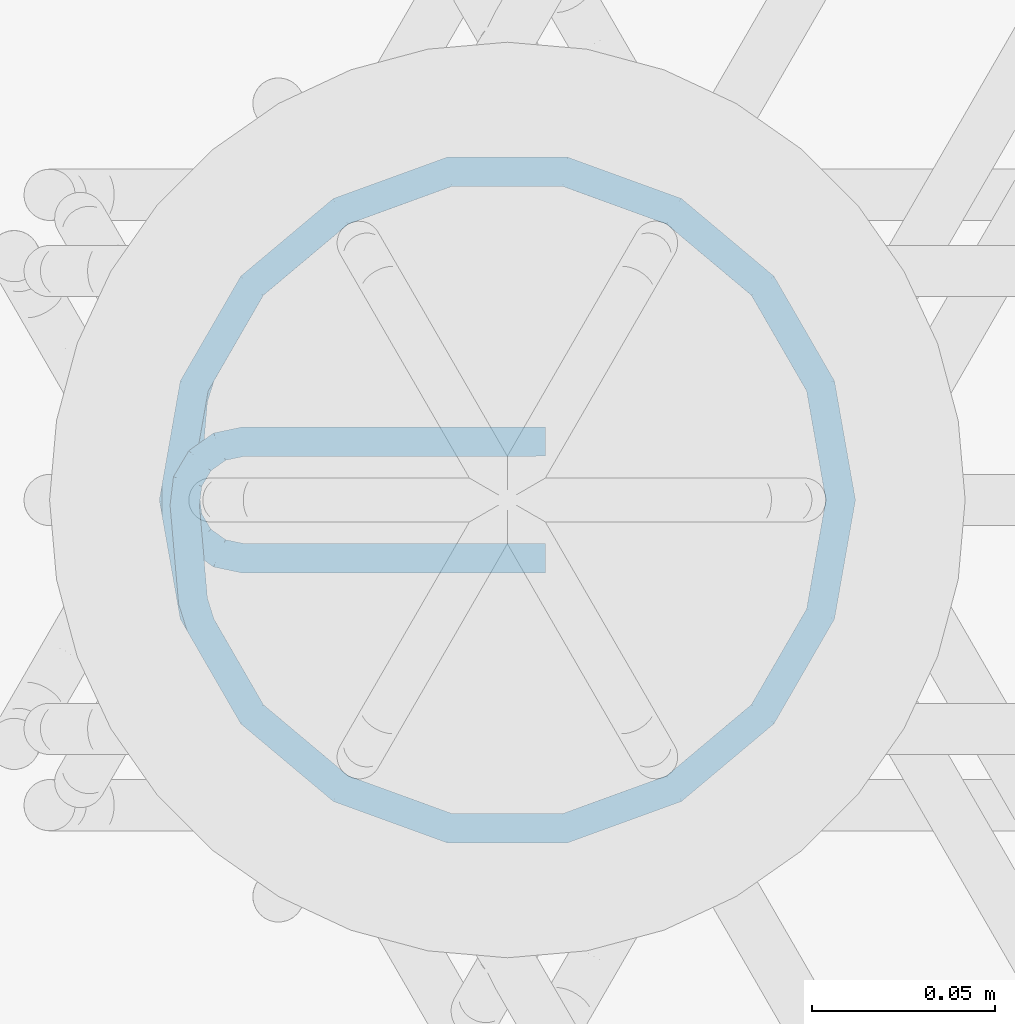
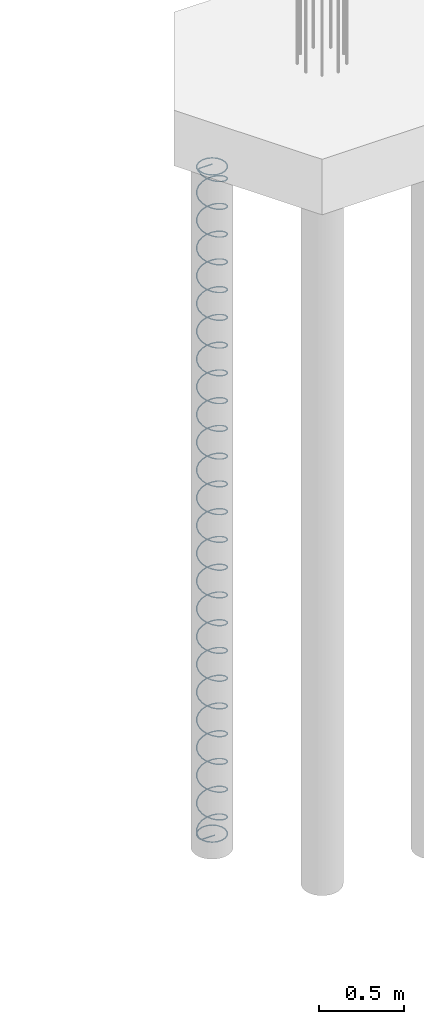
# One storey, part 8 of 23: 1 reinforcing bar.
"""IFC2X3 building model written with IfcOpenShell, lengths in metres."""

from ifc_helpers import new_model, entity, si_unit, direction, frame, origin, place, context, subcontext, project, spatial, shape, source, transform, mapped, element, save


model = new_model("IFC2X3")

# Units and contexts
model_context = context("Model", 3, precision=0.0, world=origin(), true_north=direction((0.0, 1.0)))
plan_context = context("Plan", 3, precision=0.0, world=origin(), true_north=direction((0.0, 1.0)))
body_context = subcontext(model_context, "Body", "Model", "MODEL_VIEW", scale=1.0)
ifc_project = project(units=[si_unit("LENGTHUNIT", "METRE"), si_unit("AREAUNIT", "SQUARE_METRE"), si_unit("VOLUMEUNIT", "CUBIC_METRE"), si_unit("PLANEANGLEUNIT", "RADIAN"), si_unit("THERMODYNAMICTEMPERATUREUNIT", "DEGREE_CELSIUS"), si_unit("FORCEUNIT", "NEWTON"), si_unit("MASSUNIT", "GRAM", prefix="KILO")], contexts=[model_context, plan_context])

# Site, building, storey
placement = place(None, origin())
site = spatial("IfcSite", under=ifc_project, at=placement, Name="Default Site", CompositionType="ELEMENT")
building = spatial("IfcBuilding", under=site, at=placement, Name="Default Building", CompositionType="ELEMENT")
storey_placement = place(placement, frame((0.0, 0.0, 0.0), z_axis=(1.0, 0.0, 0.0), x_axis=(0.0, 0.0, 1.0)))
storey = spatial("IfcBuildingStorey", under=building, at=storey_placement, Name="Piano 0", CompositionType="ELEMENT", Elevation=0.0)

# Reinforcing bar
shared_shape = source(origin(), body_context, None, "AdvancedSweptSolid", [
    entity("IfcSweptDiskSolid", entity("IfcCompositeCurve", [entity("IfcCompositeCurveSegment", "CONTINUOUS", True, entity("IfcPolyline", [entity("IfcCartesianPoint", [0.0, 0.0, 0.0]), entity("IfcCartesianPoint", [-0.08255, 0.0, 0.0]), entity("IfcCartesianPoint", [-0.088992, -0.001354, -1.3e-05]), entity("IfcCartesianPoint", [-0.094343, -0.005186, -4.9e-05]), entity("IfcCartesianPoint", [-0.097699, -0.010849, -0.000103]), entity("IfcCartesianPoint", [-0.09849, -0.017383, -0.000164]), entity("IfcCartesianPoint", [-0.096222, -0.043503, -0.000411]), entity("IfcCartesianPoint", [-0.094139, -0.050118, -0.000494]), entity("IfcCartesianPoint", [-0.080113, -0.074411, -0.000889]), entity("IfcCartesianPoint", [-0.055903, -0.094726, -0.001333]), entity("IfcCartesianPoint", [-0.026205, -0.105535, -0.001778]), entity("IfcCartesianPoint", [0.005399, -0.105535, -0.002222]), entity("IfcCartesianPoint", [0.035097, -0.094726, -0.002667]), entity("IfcCartesianPoint", [0.059307, -0.074411, -0.003111]), entity("IfcCartesianPoint", [0.075109, -0.047042, -0.003556]), entity("IfcCartesianPoint", [0.080597, -0.015918, -0.004]), entity("IfcCartesianPoint", [0.075109, 0.015206, -0.004444]), entity("IfcCartesianPoint", [0.059307, 0.042576, -0.004889]), entity("IfcCartesianPoint", [0.035097, 0.062891, -0.005333]), entity("IfcCartesianPoint", [0.005399, 0.0737, -0.005778]), entity("IfcCartesianPoint", [-0.026205, 0.0737, -0.006222]), entity("IfcCartesianPoint", [-0.055903, 0.062891, -0.006667]), entity("IfcCartesianPoint", [-0.080113, 0.042576, -0.007111]), entity("IfcCartesianPoint", [-0.095915, 0.015206, -0.007556]), entity("IfcCartesianPoint", [-0.100736, -0.012136, -0.007946]), entity("IfcCartesianPoint", [-0.100774, -0.019485, -0.009274]), entity("IfcCartesianPoint", [-0.095915, -0.047042, -0.019111]), entity("IfcCartesianPoint", [-0.080113, -0.074411, -0.030222]), entity("IfcCartesianPoint", [-0.055903, -0.094726, -0.041333]), entity("IfcCartesianPoint", [-0.026205, -0.105535, -0.052444]), entity("IfcCartesianPoint", [0.005399, -0.105535, -0.063556]), entity("IfcCartesianPoint", [0.035097, -0.094726, -0.074667]), entity("IfcCartesianPoint", [0.059307, -0.074411, -0.085778]), entity("IfcCartesianPoint", [0.075109, -0.047042, -0.096889]), entity("IfcCartesianPoint", [0.080597, -0.015918, -0.108]), entity("IfcCartesianPoint", [0.075109, 0.015206, -0.119111]), entity("IfcCartesianPoint", [0.059307, 0.042576, -0.130222]), entity("IfcCartesianPoint", [0.035097, 0.062891, -0.141333]), entity("IfcCartesianPoint", [0.005399, 0.0737, -0.152444]), entity("IfcCartesianPoint", [-0.026205, 0.0737, -0.163556]), entity("IfcCartesianPoint", [-0.055903, 0.062891, -0.174667]), entity("IfcCartesianPoint", [-0.080113, 0.042576, -0.185778]), entity("IfcCartesianPoint", [-0.095915, 0.015206, -0.196889]), entity("IfcCartesianPoint", [-0.101403, -0.015918, -0.208]), entity("IfcCartesianPoint", [-0.095915, -0.047042, -0.219111]), entity("IfcCartesianPoint", [-0.080113, -0.074411, -0.230222]), entity("IfcCartesianPoint", [-0.055903, -0.094726, -0.241333]), entity("IfcCartesianPoint", [-0.026205, -0.105535, -0.252444]), entity("IfcCartesianPoint", [0.005399, -0.105535, -0.263556]), entity("IfcCartesianPoint", [0.035097, -0.094726, -0.274667]), entity("IfcCartesianPoint", [0.059307, -0.074411, -0.285778]), entity("IfcCartesianPoint", [0.075109, -0.047042, -0.296889]), entity("IfcCartesianPoint", [0.080597, -0.015918, -0.308]), entity("IfcCartesianPoint", [0.075109, 0.015206, -0.319111]), entity("IfcCartesianPoint", [0.059307, 0.042576, -0.330222]), entity("IfcCartesianPoint", [0.035097, 0.062891, -0.341333]), entity("IfcCartesianPoint", [0.005399, 0.0737, -0.352444]), entity("IfcCartesianPoint", [-0.026205, 0.0737, -0.363556]), entity("IfcCartesianPoint", [-0.055903, 0.062891, -0.374667]), entity("IfcCartesianPoint", [-0.080113, 0.042576, -0.385778]), entity("IfcCartesianPoint", [-0.095915, 0.015206, -0.396889]), entity("IfcCartesianPoint", [-0.101403, -0.015918, -0.408]), entity("IfcCartesianPoint", [-0.095915, -0.047042, -0.419111]), entity("IfcCartesianPoint", [-0.080113, -0.074411, -0.430222]), entity("IfcCartesianPoint", [-0.055903, -0.094726, -0.441333]), entity("IfcCartesianPoint", [-0.026205, -0.105535, -0.452444]), entity("IfcCartesianPoint", [0.005399, -0.105535, -0.463556]), entity("IfcCartesianPoint", [0.035097, -0.094726, -0.474667]), entity("IfcCartesianPoint", [0.059307, -0.074411, -0.485778]), entity("IfcCartesianPoint", [0.075109, -0.047042, -0.496889]), entity("IfcCartesianPoint", [0.080597, -0.015918, -0.508]), entity("IfcCartesianPoint", [0.075109, 0.015206, -0.519111]), entity("IfcCartesianPoint", [0.059307, 0.042576, -0.530222]), entity("IfcCartesianPoint", [0.035097, 0.062891, -0.541333]), entity("IfcCartesianPoint", [0.005399, 0.0737, -0.552444]), entity("IfcCartesianPoint", [-0.026205, 0.0737, -0.563556]), entity("IfcCartesianPoint", [-0.055903, 0.062891, -0.574667]), entity("IfcCartesianPoint", [-0.080113, 0.042576, -0.585778]), entity("IfcCartesianPoint", [-0.095915, 0.015206, -0.596889]), entity("IfcCartesianPoint", [-0.101403, -0.015918, -0.608]), entity("IfcCartesianPoint", [-0.095915, -0.047042, -0.619111]), entity("IfcCartesianPoint", [-0.080113, -0.074411, -0.630222]), entity("IfcCartesianPoint", [-0.055903, -0.094726, -0.641333]), entity("IfcCartesianPoint", [-0.026205, -0.105535, -0.652444]), entity("IfcCartesianPoint", [0.005399, -0.105535, -0.663556]), entity("IfcCartesianPoint", [0.035097, -0.094726, -0.674667]), entity("IfcCartesianPoint", [0.059307, -0.074411, -0.685778]), entity("IfcCartesianPoint", [0.075109, -0.047042, -0.696889]), entity("IfcCartesianPoint", [0.080597, -0.015918, -0.708]), entity("IfcCartesianPoint", [0.075109, 0.015206, -0.719111]), entity("IfcCartesianPoint", [0.059307, 0.042576, -0.730222]), entity("IfcCartesianPoint", [0.035097, 0.062891, -0.741333]), entity("IfcCartesianPoint", [0.005399, 0.0737, -0.752444]), entity("IfcCartesianPoint", [-0.026205, 0.0737, -0.763556]), entity("IfcCartesianPoint", [-0.055903, 0.062891, -0.774667]), entity("IfcCartesianPoint", [-0.080113, 0.042576, -0.785778]), entity("IfcCartesianPoint", [-0.095915, 0.015206, -0.796889]), entity("IfcCartesianPoint", [-0.101403, -0.015918, -0.808]), entity("IfcCartesianPoint", [-0.095915, -0.047042, -0.819111]), entity("IfcCartesianPoint", [-0.080113, -0.074411, -0.830222]), entity("IfcCartesianPoint", [-0.055903, -0.094726, -0.841333]), entity("IfcCartesianPoint", [-0.026205, -0.105535, -0.852444]), entity("IfcCartesianPoint", [0.005399, -0.105535, -0.863556]), entity("IfcCartesianPoint", [0.035097, -0.094726, -0.874667]), entity("IfcCartesianPoint", [0.059307, -0.074411, -0.885778]), entity("IfcCartesianPoint", [0.075109, -0.047042, -0.896889]), entity("IfcCartesianPoint", [0.080597, -0.015918, -0.908]), entity("IfcCartesianPoint", [0.075109, 0.015206, -0.919111]), entity("IfcCartesianPoint", [0.059307, 0.042576, -0.930222]), entity("IfcCartesianPoint", [0.035097, 0.062891, -0.941333]), entity("IfcCartesianPoint", [0.005399, 0.0737, -0.952444]), entity("IfcCartesianPoint", [-0.026205, 0.0737, -0.963556]), entity("IfcCartesianPoint", [-0.055903, 0.062891, -0.974667]), entity("IfcCartesianPoint", [-0.080113, 0.042576, -0.985778]), entity("IfcCartesianPoint", [-0.095915, 0.015206, -0.996889]), entity("IfcCartesianPoint", [-0.101403, -0.015918, -1.008]), entity("IfcCartesianPoint", [-0.095915, -0.047042, -1.019111]), entity("IfcCartesianPoint", [-0.080113, -0.074411, -1.030222]), entity("IfcCartesianPoint", [-0.055903, -0.094726, -1.041333]), entity("IfcCartesianPoint", [-0.026205, -0.105535, -1.052444]), entity("IfcCartesianPoint", [0.005399, -0.105535, -1.063556]), entity("IfcCartesianPoint", [0.035097, -0.094726, -1.074667]), entity("IfcCartesianPoint", [0.059307, -0.074411, -1.085778]), entity("IfcCartesianPoint", [0.075109, -0.047042, -1.096889]), entity("IfcCartesianPoint", [0.080597, -0.015918, -1.108]), entity("IfcCartesianPoint", [0.075109, 0.015206, -1.119111]), entity("IfcCartesianPoint", [0.059307, 0.042576, -1.130222]), entity("IfcCartesianPoint", [0.035097, 0.062891, -1.141333]), entity("IfcCartesianPoint", [0.005399, 0.0737, -1.152444]), entity("IfcCartesianPoint", [-0.026205, 0.0737, -1.163556]), entity("IfcCartesianPoint", [-0.055903, 0.062891, -1.174667]), entity("IfcCartesianPoint", [-0.080113, 0.042576, -1.185778]), entity("IfcCartesianPoint", [-0.095915, 0.015206, -1.196889]), entity("IfcCartesianPoint", [-0.101403, -0.015918, -1.208]), entity("IfcCartesianPoint", [-0.095915, -0.047042, -1.219111]), entity("IfcCartesianPoint", [-0.080113, -0.074411, -1.230222]), entity("IfcCartesianPoint", [-0.055903, -0.094726, -1.241333]), entity("IfcCartesianPoint", [-0.026205, -0.105535, -1.252444]), entity("IfcCartesianPoint", [0.005399, -0.105535, -1.263556]), entity("IfcCartesianPoint", [0.035097, -0.094726, -1.274667]), entity("IfcCartesianPoint", [0.059307, -0.074411, -1.285778]), entity("IfcCartesianPoint", [0.075109, -0.047042, -1.296889]), entity("IfcCartesianPoint", [0.080597, -0.015918, -1.308]), entity("IfcCartesianPoint", [0.075109, 0.015206, -1.319111]), entity("IfcCartesianPoint", [0.059307, 0.042576, -1.330222]), entity("IfcCartesianPoint", [0.035097, 0.062891, -1.341333]), entity("IfcCartesianPoint", [0.005399, 0.0737, -1.352444]), entity("IfcCartesianPoint", [-0.026205, 0.0737, -1.363556]), entity("IfcCartesianPoint", [-0.055903, 0.062891, -1.374667]), entity("IfcCartesianPoint", [-0.080113, 0.042576, -1.385778]), entity("IfcCartesianPoint", [-0.095915, 0.015206, -1.396889]), entity("IfcCartesianPoint", [-0.101403, -0.015918, -1.408]), entity("IfcCartesianPoint", [-0.095915, -0.047042, -1.419111]), entity("IfcCartesianPoint", [-0.080113, -0.074411, -1.430222]), entity("IfcCartesianPoint", [-0.055903, -0.094726, -1.441333]), entity("IfcCartesianPoint", [-0.026205, -0.105535, -1.452444]), entity("IfcCartesianPoint", [0.005399, -0.105535, -1.463556]), entity("IfcCartesianPoint", [0.035097, -0.094726, -1.474667]), entity("IfcCartesianPoint", [0.059307, -0.074411, -1.485778]), entity("IfcCartesianPoint", [0.075109, -0.047042, -1.496889]), entity("IfcCartesianPoint", [0.080597, -0.015918, -1.508]), entity("IfcCartesianPoint", [0.075109, 0.015206, -1.519111]), entity("IfcCartesianPoint", [0.059307, 0.042576, -1.530222]), entity("IfcCartesianPoint", [0.035097, 0.062891, -1.541333]), entity("IfcCartesianPoint", [0.005399, 0.0737, -1.552444]), entity("IfcCartesianPoint", [-0.026205, 0.0737, -1.563556]), entity("IfcCartesianPoint", [-0.055903, 0.062891, -1.574667]), entity("IfcCartesianPoint", [-0.080113, 0.042576, -1.585778]), entity("IfcCartesianPoint", [-0.095915, 0.015206, -1.596889]), entity("IfcCartesianPoint", [-0.101403, -0.015918, -1.608]), entity("IfcCartesianPoint", [-0.095915, -0.047042, -1.619111]), entity("IfcCartesianPoint", [-0.080113, -0.074411, -1.630222]), entity("IfcCartesianPoint", [-0.055903, -0.094726, -1.641333]), entity("IfcCartesianPoint", [-0.026205, -0.105535, -1.652444]), entity("IfcCartesianPoint", [0.005399, -0.105535, -1.663556]), entity("IfcCartesianPoint", [0.035097, -0.094726, -1.674667]), entity("IfcCartesianPoint", [0.059307, -0.074411, -1.685778]), entity("IfcCartesianPoint", [0.075109, -0.047042, -1.696889]), entity("IfcCartesianPoint", [0.080597, -0.015918, -1.708]), entity("IfcCartesianPoint", [0.075109, 0.015206, -1.719111]), entity("IfcCartesianPoint", [0.059307, 0.042576, -1.730222]), entity("IfcCartesianPoint", [0.035097, 0.062891, -1.741333]), entity("IfcCartesianPoint", [0.005399, 0.0737, -1.752444]), entity("IfcCartesianPoint", [-0.026205, 0.0737, -1.763556]), entity("IfcCartesianPoint", [-0.055903, 0.062891, -1.774667]), entity("IfcCartesianPoint", [-0.080113, 0.042576, -1.785778]), entity("IfcCartesianPoint", [-0.095915, 0.015206, -1.796889]), entity("IfcCartesianPoint", [-0.101403, -0.015918, -1.808]), entity("IfcCartesianPoint", [-0.095915, -0.047042, -1.819111]), entity("IfcCartesianPoint", [-0.080113, -0.074411, -1.830222]), entity("IfcCartesianPoint", [-0.055903, -0.094726, -1.841333]), entity("IfcCartesianPoint", [-0.026205, -0.105535, -1.852444]), entity("IfcCartesianPoint", [0.005399, -0.105535, -1.863556]), entity("IfcCartesianPoint", [0.035097, -0.094726, -1.874667]), entity("IfcCartesianPoint", [0.059307, -0.074411, -1.885778]), entity("IfcCartesianPoint", [0.075109, -0.047042, -1.896889]), entity("IfcCartesianPoint", [0.080597, -0.015918, -1.908]), entity("IfcCartesianPoint", [0.075109, 0.015206, -1.919111]), entity("IfcCartesianPoint", [0.059307, 0.042576, -1.930222]), entity("IfcCartesianPoint", [0.035097, 0.062891, -1.941333]), entity("IfcCartesianPoint", [0.005399, 0.0737, -1.952444]), entity("IfcCartesianPoint", [-0.026205, 0.0737, -1.963556]), entity("IfcCartesianPoint", [-0.055903, 0.062891, -1.974667]), entity("IfcCartesianPoint", [-0.080113, 0.042576, -1.985778]), entity("IfcCartesianPoint", [-0.095915, 0.015206, -1.996889]), entity("IfcCartesianPoint", [-0.101403, -0.015918, -2.008]), entity("IfcCartesianPoint", [-0.095915, -0.047042, -2.019111]), entity("IfcCartesianPoint", [-0.080113, -0.074411, -2.030222]), entity("IfcCartesianPoint", [-0.055903, -0.094726, -2.041333]), entity("IfcCartesianPoint", [-0.026205, -0.105535, -2.052444]), entity("IfcCartesianPoint", [0.005399, -0.105535, -2.063556]), entity("IfcCartesianPoint", [0.035097, -0.094726, -2.074667]), entity("IfcCartesianPoint", [0.059307, -0.074411, -2.085778]), entity("IfcCartesianPoint", [0.075109, -0.047042, -2.096889]), entity("IfcCartesianPoint", [0.080597, -0.015918, -2.108]), entity("IfcCartesianPoint", [0.075109, 0.015206, -2.119111]), entity("IfcCartesianPoint", [0.059307, 0.042576, -2.130222]), entity("IfcCartesianPoint", [0.035097, 0.062891, -2.141333]), entity("IfcCartesianPoint", [0.005399, 0.0737, -2.152444]), entity("IfcCartesianPoint", [-0.026205, 0.0737, -2.163556]), entity("IfcCartesianPoint", [-0.055903, 0.062891, -2.174667]), entity("IfcCartesianPoint", [-0.080113, 0.042576, -2.185778]), entity("IfcCartesianPoint", [-0.095915, 0.015206, -2.196889]), entity("IfcCartesianPoint", [-0.101403, -0.015918, -2.208]), entity("IfcCartesianPoint", [-0.095915, -0.047042, -2.219111]), entity("IfcCartesianPoint", [-0.080113, -0.074411, -2.230222]), entity("IfcCartesianPoint", [-0.055903, -0.094726, -2.241333]), entity("IfcCartesianPoint", [-0.026205, -0.105535, -2.252444]), entity("IfcCartesianPoint", [0.005399, -0.105535, -2.263556]), entity("IfcCartesianPoint", [0.035097, -0.094726, -2.274667]), entity("IfcCartesianPoint", [0.059307, -0.074411, -2.285778]), entity("IfcCartesianPoint", [0.075109, -0.047042, -2.296889]), entity("IfcCartesianPoint", [0.080597, -0.015918, -2.308]), entity("IfcCartesianPoint", [0.075109, 0.015206, -2.319111]), entity("IfcCartesianPoint", [0.059307, 0.042576, -2.330222]), entity("IfcCartesianPoint", [0.035097, 0.062891, -2.341333]), entity("IfcCartesianPoint", [0.005399, 0.0737, -2.352444]), entity("IfcCartesianPoint", [-0.026205, 0.0737, -2.363556]), entity("IfcCartesianPoint", [-0.055903, 0.062891, -2.374667]), entity("IfcCartesianPoint", [-0.080113, 0.042576, -2.385778]), entity("IfcCartesianPoint", [-0.095915, 0.015206, -2.396889]), entity("IfcCartesianPoint", [-0.101403, -0.015918, -2.408]), entity("IfcCartesianPoint", [-0.095915, -0.047042, -2.419111]), entity("IfcCartesianPoint", [-0.080113, -0.074411, -2.430222]), entity("IfcCartesianPoint", [-0.055903, -0.094726, -2.441333]), entity("IfcCartesianPoint", [-0.026205, -0.105535, -2.452444]), entity("IfcCartesianPoint", [0.005399, -0.105535, -2.463556]), entity("IfcCartesianPoint", [0.035097, -0.094726, -2.474667]), entity("IfcCartesianPoint", [0.059307, -0.074411, -2.485778]), entity("IfcCartesianPoint", [0.075109, -0.047042, -2.496889]), entity("IfcCartesianPoint", [0.080597, -0.015918, -2.508]), entity("IfcCartesianPoint", [0.075109, 0.015206, -2.519111]), entity("IfcCartesianPoint", [0.059307, 0.042576, -2.530222]), entity("IfcCartesianPoint", [0.035097, 0.062891, -2.541333]), entity("IfcCartesianPoint", [0.005399, 0.0737, -2.552444]), entity("IfcCartesianPoint", [-0.026205, 0.0737, -2.563556]), entity("IfcCartesianPoint", [-0.055903, 0.062891, -2.574667]), entity("IfcCartesianPoint", [-0.080113, 0.042576, -2.585778]), entity("IfcCartesianPoint", [-0.095915, 0.015206, -2.596889]), entity("IfcCartesianPoint", [-0.101403, -0.015918, -2.608]), entity("IfcCartesianPoint", [-0.095915, -0.047042, -2.619111]), entity("IfcCartesianPoint", [-0.080113, -0.074411, -2.630222]), entity("IfcCartesianPoint", [-0.055903, -0.094726, -2.641333]), entity("IfcCartesianPoint", [-0.026205, -0.105535, -2.652444]), entity("IfcCartesianPoint", [0.005399, -0.105535, -2.663556]), entity("IfcCartesianPoint", [0.035097, -0.094726, -2.674667]), entity("IfcCartesianPoint", [0.059307, -0.074411, -2.685778]), entity("IfcCartesianPoint", [0.075109, -0.047042, -2.696889]), entity("IfcCartesianPoint", [0.080597, -0.015918, -2.708]), entity("IfcCartesianPoint", [0.075109, 0.015206, -2.719111]), entity("IfcCartesianPoint", [0.059307, 0.042576, -2.730222]), entity("IfcCartesianPoint", [0.035097, 0.062891, -2.741333]), entity("IfcCartesianPoint", [0.005399, 0.0737, -2.752444]), entity("IfcCartesianPoint", [-0.026205, 0.0737, -2.763556]), entity("IfcCartesianPoint", [-0.055903, 0.062891, -2.774667]), entity("IfcCartesianPoint", [-0.080113, 0.042576, -2.785778]), entity("IfcCartesianPoint", [-0.095915, 0.015206, -2.796889]), entity("IfcCartesianPoint", [-0.101403, -0.015918, -2.808]), entity("IfcCartesianPoint", [-0.095915, -0.047042, -2.819111]), entity("IfcCartesianPoint", [-0.080113, -0.074411, -2.830222]), entity("IfcCartesianPoint", [-0.055903, -0.094726, -2.841333]), entity("IfcCartesianPoint", [-0.026205, -0.105535, -2.852444]), entity("IfcCartesianPoint", [0.005399, -0.105535, -2.863556]), entity("IfcCartesianPoint", [0.035097, -0.094726, -2.874667]), entity("IfcCartesianPoint", [0.059307, -0.074411, -2.885778]), entity("IfcCartesianPoint", [0.075109, -0.047042, -2.896889]), entity("IfcCartesianPoint", [0.080597, -0.015918, -2.908]), entity("IfcCartesianPoint", [0.075109, 0.015206, -2.919111]), entity("IfcCartesianPoint", [0.059307, 0.042576, -2.930222]), entity("IfcCartesianPoint", [0.035097, 0.062891, -2.941333]), entity("IfcCartesianPoint", [0.005399, 0.0737, -2.952444]), entity("IfcCartesianPoint", [-0.026205, 0.0737, -2.963556]), entity("IfcCartesianPoint", [-0.055903, 0.062891, -2.974667]), entity("IfcCartesianPoint", [-0.080113, 0.042576, -2.985778]), entity("IfcCartesianPoint", [-0.095915, 0.015206, -2.996889]), entity("IfcCartesianPoint", [-0.101403, -0.015918, -3.008]), entity("IfcCartesianPoint", [-0.095915, -0.047042, -3.019111]), entity("IfcCartesianPoint", [-0.080113, -0.074411, -3.030222]), entity("IfcCartesianPoint", [-0.055903, -0.094726, -3.041333]), entity("IfcCartesianPoint", [-0.026205, -0.105535, -3.052444]), entity("IfcCartesianPoint", [0.005399, -0.105535, -3.063556]), entity("IfcCartesianPoint", [0.035097, -0.094726, -3.074667]), entity("IfcCartesianPoint", [0.059307, -0.074411, -3.085778]), entity("IfcCartesianPoint", [0.075109, -0.047042, -3.096889]), entity("IfcCartesianPoint", [0.080597, -0.015918, -3.108]), entity("IfcCartesianPoint", [0.075109, 0.015206, -3.119111]), entity("IfcCartesianPoint", [0.059307, 0.042576, -3.130222]), entity("IfcCartesianPoint", [0.035097, 0.062891, -3.141333]), entity("IfcCartesianPoint", [0.005399, 0.0737, -3.152444]), entity("IfcCartesianPoint", [-0.026205, 0.0737, -3.163556]), entity("IfcCartesianPoint", [-0.055903, 0.062891, -3.174667]), entity("IfcCartesianPoint", [-0.080113, 0.042576, -3.185778]), entity("IfcCartesianPoint", [-0.095915, 0.015206, -3.196889]), entity("IfcCartesianPoint", [-0.101403, -0.015918, -3.208]), entity("IfcCartesianPoint", [-0.095915, -0.047042, -3.219111]), entity("IfcCartesianPoint", [-0.080113, -0.074411, -3.230222]), entity("IfcCartesianPoint", [-0.055903, -0.094726, -3.241333]), entity("IfcCartesianPoint", [-0.026205, -0.105535, -3.252444]), entity("IfcCartesianPoint", [0.005399, -0.105535, -3.263556]), entity("IfcCartesianPoint", [0.035097, -0.094726, -3.274667]), entity("IfcCartesianPoint", [0.059307, -0.074411, -3.285778]), entity("IfcCartesianPoint", [0.075109, -0.047042, -3.296889]), entity("IfcCartesianPoint", [0.080597, -0.015918, -3.308]), entity("IfcCartesianPoint", [0.075109, 0.015206, -3.319111]), entity("IfcCartesianPoint", [0.059307, 0.042576, -3.330222]), entity("IfcCartesianPoint", [0.035097, 0.062891, -3.341333]), entity("IfcCartesianPoint", [0.005399, 0.0737, -3.352444]), entity("IfcCartesianPoint", [-0.026205, 0.0737, -3.363556]), entity("IfcCartesianPoint", [-0.055903, 0.062891, -3.374667]), entity("IfcCartesianPoint", [-0.080113, 0.042576, -3.385778]), entity("IfcCartesianPoint", [-0.095915, 0.015206, -3.396889]), entity("IfcCartesianPoint", [-0.101403, -0.015918, -3.408]), entity("IfcCartesianPoint", [-0.095915, -0.047042, -3.419111]), entity("IfcCartesianPoint", [-0.080113, -0.074411, -3.430222]), entity("IfcCartesianPoint", [-0.055903, -0.094726, -3.441333]), entity("IfcCartesianPoint", [-0.026205, -0.105535, -3.452444]), entity("IfcCartesianPoint", [0.005399, -0.105535, -3.463556]), entity("IfcCartesianPoint", [0.035097, -0.094726, -3.474667]), entity("IfcCartesianPoint", [0.059307, -0.074411, -3.485778]), entity("IfcCartesianPoint", [0.075109, -0.047042, -3.496889]), entity("IfcCartesianPoint", [0.080597, -0.015918, -3.508]), entity("IfcCartesianPoint", [0.075109, 0.015206, -3.519111]), entity("IfcCartesianPoint", [0.059307, 0.042576, -3.530222]), entity("IfcCartesianPoint", [0.035097, 0.062891, -3.541333]), entity("IfcCartesianPoint", [0.005399, 0.0737, -3.552444]), entity("IfcCartesianPoint", [-0.026205, 0.0737, -3.563556]), entity("IfcCartesianPoint", [-0.055903, 0.062891, -3.574667]), entity("IfcCartesianPoint", [-0.080113, 0.042576, -3.585778]), entity("IfcCartesianPoint", [-0.095915, 0.015206, -3.596889]), entity("IfcCartesianPoint", [-0.101403, -0.015918, -3.608]), entity("IfcCartesianPoint", [-0.095915, -0.047042, -3.619111]), entity("IfcCartesianPoint", [-0.080113, -0.074411, -3.630222]), entity("IfcCartesianPoint", [-0.055903, -0.094726, -3.641333]), entity("IfcCartesianPoint", [-0.026205, -0.105535, -3.652444]), entity("IfcCartesianPoint", [0.005399, -0.105535, -3.663556]), entity("IfcCartesianPoint", [0.035097, -0.094726, -3.674667]), entity("IfcCartesianPoint", [0.059307, -0.074411, -3.685778]), entity("IfcCartesianPoint", [0.075109, -0.047042, -3.696889]), entity("IfcCartesianPoint", [0.080597, -0.015918, -3.708]), entity("IfcCartesianPoint", [0.075109, 0.015206, -3.719111]), entity("IfcCartesianPoint", [0.059307, 0.042576, -3.730222]), entity("IfcCartesianPoint", [0.035097, 0.062891, -3.741333]), entity("IfcCartesianPoint", [0.005399, 0.0737, -3.752444]), entity("IfcCartesianPoint", [-0.026205, 0.0737, -3.763556]), entity("IfcCartesianPoint", [-0.055903, 0.062891, -3.774667]), entity("IfcCartesianPoint", [-0.080113, 0.042576, -3.785778]), entity("IfcCartesianPoint", [-0.095915, 0.015206, -3.796889]), entity("IfcCartesianPoint", [-0.101403, -0.015918, -3.808]), entity("IfcCartesianPoint", [-0.095915, -0.047042, -3.819111]), entity("IfcCartesianPoint", [-0.080113, -0.074411, -3.830222]), entity("IfcCartesianPoint", [-0.055903, -0.094726, -3.841333]), entity("IfcCartesianPoint", [-0.026205, -0.105535, -3.852444]), entity("IfcCartesianPoint", [0.005399, -0.105535, -3.863556]), entity("IfcCartesianPoint", [0.035097, -0.094726, -3.874667]), entity("IfcCartesianPoint", [0.059307, -0.074411, -3.885778]), entity("IfcCartesianPoint", [0.075109, -0.047042, -3.896889]), entity("IfcCartesianPoint", [0.080597, -0.015918, -3.908]), entity("IfcCartesianPoint", [0.075109, 0.015206, -3.919111]), entity("IfcCartesianPoint", [0.059307, 0.042576, -3.930222]), entity("IfcCartesianPoint", [0.035097, 0.062891, -3.941333]), entity("IfcCartesianPoint", [0.005399, 0.0737, -3.952444]), entity("IfcCartesianPoint", [-0.026205, 0.0737, -3.963556]), entity("IfcCartesianPoint", [-0.055903, 0.062891, -3.974667]), entity("IfcCartesianPoint", [-0.080113, 0.042576, -3.985778]), entity("IfcCartesianPoint", [-0.095915, 0.015206, -3.996889]), entity("IfcCartesianPoint", [-0.101403, -0.015918, -4.008]), entity("IfcCartesianPoint", [-0.095915, -0.047042, -4.019111]), entity("IfcCartesianPoint", [-0.080113, -0.074411, -4.030222]), entity("IfcCartesianPoint", [-0.055903, -0.094726, -4.041333]), entity("IfcCartesianPoint", [-0.026205, -0.105535, -4.052444]), entity("IfcCartesianPoint", [0.005399, -0.105535, -4.063556]), entity("IfcCartesianPoint", [0.035097, -0.094726, -4.074667]), entity("IfcCartesianPoint", [0.059307, -0.074411, -4.085778]), entity("IfcCartesianPoint", [0.075109, -0.047042, -4.096889]), entity("IfcCartesianPoint", [0.080597, -0.015918, -4.108]), entity("IfcCartesianPoint", [0.075109, 0.015206, -4.119111]), entity("IfcCartesianPoint", [0.059307, 0.042576, -4.130222]), entity("IfcCartesianPoint", [0.035097, 0.062891, -4.141333]), entity("IfcCartesianPoint", [0.005399, 0.0737, -4.152444]), entity("IfcCartesianPoint", [-0.026205, 0.0737, -4.163556]), entity("IfcCartesianPoint", [-0.055903, 0.062891, -4.174667]), entity("IfcCartesianPoint", [-0.080113, 0.042576, -4.185778]), entity("IfcCartesianPoint", [-0.095915, 0.015206, -4.196889]), entity("IfcCartesianPoint", [-0.101403, -0.015918, -4.208]), entity("IfcCartesianPoint", [-0.095915, -0.047042, -4.219111]), entity("IfcCartesianPoint", [-0.080113, -0.074411, -4.230222]), entity("IfcCartesianPoint", [-0.055903, -0.094726, -4.241333]), entity("IfcCartesianPoint", [-0.026205, -0.105535, -4.252444]), entity("IfcCartesianPoint", [0.005399, -0.105535, -4.263556]), entity("IfcCartesianPoint", [0.035097, -0.094726, -4.274667]), entity("IfcCartesianPoint", [0.059307, -0.074411, -4.285778]), entity("IfcCartesianPoint", [0.075109, -0.047042, -4.296889]), entity("IfcCartesianPoint", [0.080597, -0.015918, -4.308]), entity("IfcCartesianPoint", [0.075109, 0.015206, -4.319111]), entity("IfcCartesianPoint", [0.059307, 0.042576, -4.330222]), entity("IfcCartesianPoint", [0.035097, 0.062891, -4.341333]), entity("IfcCartesianPoint", [0.005399, 0.0737, -4.352444]), entity("IfcCartesianPoint", [-0.026205, 0.0737, -4.363556]), entity("IfcCartesianPoint", [-0.055903, 0.062891, -4.374667]), entity("IfcCartesianPoint", [-0.080113, 0.042576, -4.385778]), entity("IfcCartesianPoint", [-0.095915, 0.015206, -4.396889]), entity("IfcCartesianPoint", [-0.101403, -0.015918, -4.408]), entity("IfcCartesianPoint", [-0.095915, -0.047042, -4.419111]), entity("IfcCartesianPoint", [-0.080113, -0.074411, -4.430222]), entity("IfcCartesianPoint", [-0.055903, -0.094726, -4.441333]), entity("IfcCartesianPoint", [-0.026205, -0.105535, -4.452444]), entity("IfcCartesianPoint", [0.005399, -0.105535, -4.463556]), entity("IfcCartesianPoint", [0.035097, -0.094726, -4.474667]), entity("IfcCartesianPoint", [0.059307, -0.074411, -4.485778]), entity("IfcCartesianPoint", [0.075109, -0.047042, -4.496889]), entity("IfcCartesianPoint", [0.080597, -0.015918, -4.508]), entity("IfcCartesianPoint", [0.075109, 0.015206, -4.519111]), entity("IfcCartesianPoint", [0.059307, 0.042576, -4.530222]), entity("IfcCartesianPoint", [0.035097, 0.062891, -4.541333]), entity("IfcCartesianPoint", [0.005399, 0.0737, -4.552444]), entity("IfcCartesianPoint", [-0.026205, 0.0737, -4.563556]), entity("IfcCartesianPoint", [-0.055903, 0.062891, -4.574667]), entity("IfcCartesianPoint", [-0.080113, 0.042576, -4.585778]), entity("IfcCartesianPoint", [-0.095915, 0.015206, -4.596889]), entity("IfcCartesianPoint", [-0.101403, -0.015918, -4.608]), entity("IfcCartesianPoint", [-0.095915, -0.047042, -4.619111]), entity("IfcCartesianPoint", [-0.080113, -0.074411, -4.630222]), entity("IfcCartesianPoint", [-0.055903, -0.094726, -4.641333]), entity("IfcCartesianPoint", [-0.026205, -0.105535, -4.652444]), entity("IfcCartesianPoint", [0.005399, -0.105535, -4.663556]), entity("IfcCartesianPoint", [0.035097, -0.094726, -4.674667]), entity("IfcCartesianPoint", [0.059307, -0.074411, -4.685778]), entity("IfcCartesianPoint", [0.075109, -0.047042, -4.696889]), entity("IfcCartesianPoint", [0.080597, -0.015918, -4.708]), entity("IfcCartesianPoint", [0.075109, 0.015206, -4.719111]), entity("IfcCartesianPoint", [0.059307, 0.042576, -4.730222]), entity("IfcCartesianPoint", [0.035097, 0.062891, -4.741333]), entity("IfcCartesianPoint", [0.005399, 0.0737, -4.752444]), entity("IfcCartesianPoint", [-0.026205, 0.0737, -4.763556]), entity("IfcCartesianPoint", [-0.055903, 0.062891, -4.774667]), entity("IfcCartesianPoint", [-0.080113, 0.042576, -4.785778]), entity("IfcCartesianPoint", [-0.095915, 0.015206, -4.796889]), entity("IfcCartesianPoint", [-0.100774, -0.01235, -4.806726]), entity("IfcCartesianPoint", [-0.100736, -0.019699, -4.808054]), entity("IfcCartesianPoint", [-0.095915, -0.047042, -4.808444]), entity("IfcCartesianPoint", [-0.080113, -0.074411, -4.808889]), entity("IfcCartesianPoint", [-0.055903, -0.094726, -4.809333]), entity("IfcCartesianPoint", [-0.026205, -0.105535, -4.809778]), entity("IfcCartesianPoint", [0.005399, -0.105535, -4.810222]), entity("IfcCartesianPoint", [0.035097, -0.094726, -4.810667]), entity("IfcCartesianPoint", [0.059307, -0.074411, -4.811111]), entity("IfcCartesianPoint", [0.075109, -0.047042, -4.811556]), entity("IfcCartesianPoint", [0.080597, -0.015918, -4.812]), entity("IfcCartesianPoint", [0.075109, 0.015206, -4.812444]), entity("IfcCartesianPoint", [0.059307, 0.042576, -4.812889]), entity("IfcCartesianPoint", [0.035097, 0.062891, -4.813333]), entity("IfcCartesianPoint", [0.005399, 0.0737, -4.813778]), entity("IfcCartesianPoint", [-0.026205, 0.0737, -4.814222]), entity("IfcCartesianPoint", [-0.055903, 0.062891, -4.814667]), entity("IfcCartesianPoint", [-0.080113, 0.042576, -4.815111]), entity("IfcCartesianPoint", [-0.094139, 0.018282, -4.815506]), entity("IfcCartesianPoint", [-0.096222, 0.011667, -4.815589]), entity("IfcCartesianPoint", [-0.09849, -0.014452, -4.815836]), entity("IfcCartesianPoint", [-0.097699, -0.020986, -4.815897]), entity("IfcCartesianPoint", [-0.094343, -0.026649, -4.815951]), entity("IfcCartesianPoint", [-0.088992, -0.030481, -4.815987]), entity("IfcCartesianPoint", [-0.08255, -0.031835, -4.816]), entity("IfcCartesianPoint", [0.0, -0.031835, -4.816])]))], False), 0.004, 0.0, 0.0),
])
element("IfcReinforcingBar", 1, at=placement, inside=storey, Name="Arm Staffa; Palo:2 Filo:3 [Piano:0]", BarLength=15.841196, BarRole="SHEAR", BarSurface="TEXTURED", NominalDiameter=0.008, shapes=[
    shape(body_context, None, "MappedRepresentation", [mapped(shared_shape, transform((7.260403, 0.015918, -0.492)))]),
])

save(model, "model.ifc")
